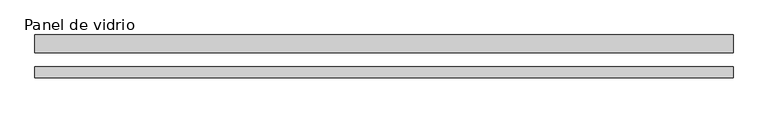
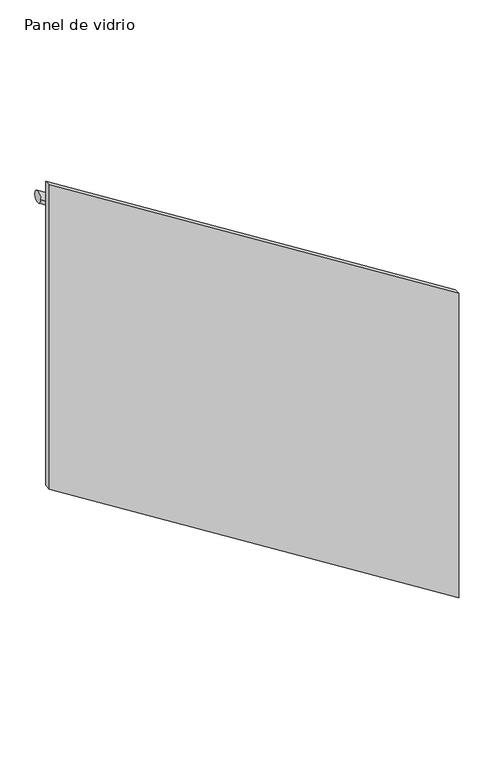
"""IFC4 building model written with IfcOpenShell, lengths in millimetres: railing geometry, Panel de vidrio."""

from ifc_helpers import new_model, si_unit, frame, origin, place, context, project, spatial, ellipse_curve, faceted_brep, source, transform, mapped, element, save
from ifc_brep_helpers import plane_surface, cylinder_surface, advanced_brep


def panel_de_vidrio_5a464c72(model_context):
    return source(origin(), model_context, "Body", "SolidModel", [
        faceted_brep([(36763.8589874, 30822.0669465, 13310.5117429), (36763.8589874, 30822.0669465, 12069.3701208), (36763.8589874, 30847.0669465, 12069.3701208), (36763.8589874, 30847.0669465, 13310.5117429), (35183.8589874, 30822.0669465, 14306.3100622), (35183.8589874, 30847.0669465, 14306.3100622), (35183.8589874, 30847.0669465, 13065.1684402), (35183.8589874, 30822.0669465, 13065.1684402)], [[[0, 1, 2, 3]], [[4, 5, 6, 7]], [[1, 0, 4, 7]], [[2, 1, 7, 6]], [[3, 2, 6, 5]], [[0, 3, 5, 4]]]),
        advanced_brep(
        [(36763.8589874, 30918.9733508, 13215.9663866), (36763.8589874, 30878.9733508, 13215.9663866), (35183.8589874, 30918.9733508, 14211.7647059), (35183.8589874, 30878.9733508, 14211.7647059)],
        [
            (0, 1, ellipse_curve(frame((36763.8589874, 30898.9733508, 13215.9663866), z_axis=(1.0, 0.0, 0.0), x_axis=(0.0, 0.0, -1.0)), 23.6407928, 20.0)),
            (1, 0, ellipse_curve(frame((36763.8589874, 30898.9733508, 13215.9663866), z_axis=(1.0, 0.0, 0.0), x_axis=(0.0, 0.0, -1.0)), 23.6407928, 20.0)),
            (2, 3, ellipse_curve(frame((35183.8589874, 30898.9733508, 14211.7647059), z_axis=(-1.0, 0.0, 0.0), x_axis=(0.0, 0.0, -1.0)), 23.6407928, 20.0)),
            (3, 2, ellipse_curve(frame((35183.8589874, 30898.9733508, 14211.7647059), z_axis=(-1.0, 0.0, 0.0), x_axis=(0.0, 0.0, -1.0)), 23.6407928, 20.0)),
            (0, 2),
            (3, 1),
        ],
        [
            plane_surface(frame((36763.8589874, 30898.9733508, 13215.9663866), z_axis=(1.0, 0.0, 0.0), x_axis=(0.0, -1.0, 0.0))),
            plane_surface(frame((35183.8589874, 30898.9733508, 14211.7647059), z_axis=(-1.0, 0.0, 0.0), x_axis=(0.0, -1.0, 0.0))),
            cylinder_surface(frame((36763.8589874, 30898.9733508, 13215.9663866), z_axis=(0.8459953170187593, 0.0, -0.5331903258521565), x_axis=(0.0, -1.0, 0.0)), 20.0),
        ],
        [
            (0, [[1, 2]]),
            (1, [[3, 4]]),
            (2, [[-1, 5, -4, 6]]),
            (2, [[-2, -6, -3, -5]]),
        ],
    ),
    ])


if __name__ == "__main__":
    model = new_model("IFC4")
    model_context = context("Model", 3, world=origin())
    ifc_project = project(units=[si_unit("LENGTHUNIT", "METRE", prefix="MILLI")], contexts=[model_context])
    site = spatial("IfcSite", under=ifc_project)
    building = spatial("IfcBuilding", under=site)
    placement = place(None, origin())
    panel_de_vidrio_shape = panel_de_vidrio_5a464c72(model_context)
    element("IfcRailing", 1, ObjectType="Panel de vidrio", at=placement, inside=building, context=model_context, shape_type="MappedRepresentation", body=[
        mapped(panel_de_vidrio_shape, transform((0.0, 0.0, 0.0), x_axis=(1.0, 0.0, 0.0), y_axis=(0.0, 1.0, 0.0), z_axis=(0.0, 0.0, 1.0))),
    ])
    save(model, "model.ifc")
